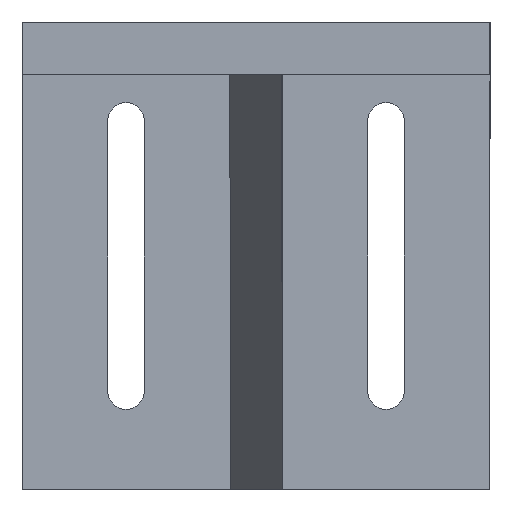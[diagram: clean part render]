
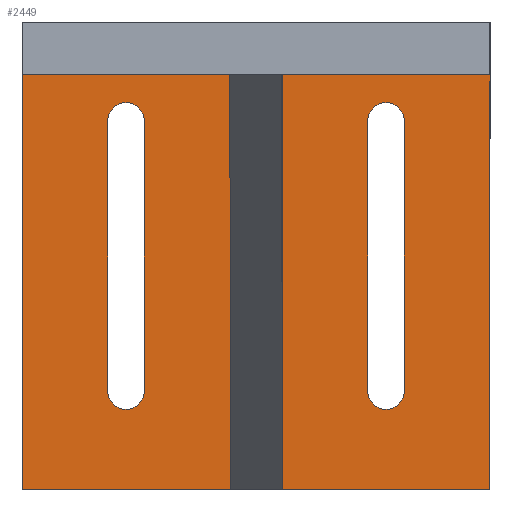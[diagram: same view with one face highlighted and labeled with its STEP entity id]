
A CAD part, left-side view. The second image highlights one B-rep face of the part: STEP entity #2449.
In plain terms, the highlighted planar face has unit normal (-1, 0, 0) as drawn and (0, 0, -1) by its records, which use the part's own axes.
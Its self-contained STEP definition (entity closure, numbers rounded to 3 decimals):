
#58 = EDGE_CURVE ( 'NONE', #476, #2501, #375, .T. ) ;
#61 = EDGE_CURVE ( 'NONE', #1996, #1690, #442, .T. ) ;
#109 = DIRECTION ( 'NONE',  ( 0., 0., 1. ) ) ;
#128 = LINE ( 'NONE', #367, #147 ) ;
#131 = CIRCLE ( 'NONE', #2709, 3.5 ) ;
#147 = VECTOR ( 'NONE', #2423, 1000. ) ;
#164 = DIRECTION ( 'NONE',  ( 0., 0., 1. ) ) ;
#202 = EDGE_CURVE ( 'NONE', #1141, #476, #2625, .T. ) ;
#247 = VERTEX_POINT ( 'NONE', #3150 ) ;
#274 = FACE_BOUND ( 'NONE', #704, .T. ) ;
#367 = CARTESIAN_POINT ( 'NONE',  ( 45., -45., -5. ) ) ;
#375 = CIRCLE ( 'NONE', #3414, 3.5 ) ;
#416 = EDGE_CURVE ( 'NONE', #3387, #1996, #2826, .T. ) ;
#442 = LINE ( 'NONE', #2719, #2700 ) ;
#456 = EDGE_CURVE ( 'NONE', #2775, #247, #2763, .T. ) ;
#476 = VERTEX_POINT ( 'NONE', #788 ) ;
#482 = VECTOR ( 'NONE', #1109, 1000. ) ;
#483 = CIRCLE ( 'NONE', #2009, 3.3 ) ;
#494 = CARTESIAN_POINT ( 'NONE',  ( 21.5, 26., -5. ) ) ;
#528 = ORIENTED_EDGE ( 'NONE', *, *, #737, .T. ) ;
#553 = EDGE_CURVE ( 'NONE', #1394, #3387, #2781, .T. ) ;
#558 = ORIENTED_EDGE ( 'NONE', *, *, #416, .F. ) ;
#559 = CARTESIAN_POINT ( 'NONE',  ( -3.3, 27., -5. ) ) ;
#561 = AXIS2_PLACEMENT_3D ( 'NONE', #1924, #109, #2177 ) ;
#580 = CARTESIAN_POINT ( 'NONE',  ( 45., -45., -5. ) ) ;
#652 = EDGE_LOOP ( 'NONE', ( #2234, #1650 ) ) ;
#657 = CIRCLE ( 'NONE', #2353, 3.3 ) ;
#688 = CARTESIAN_POINT ( 'NONE',  ( 25., -26., -5. ) ) ;
#701 = VERTEX_POINT ( 'NONE', #3074 ) ;
#704 = EDGE_LOOP ( 'NONE', ( #1896, #528, #1130, #786 ) ) ;
#737 = EDGE_CURVE ( 'NONE', #701, #2775, #1626, .T. ) ;
#776 = EDGE_CURVE ( 'NONE', #901, #2981, #657, .T. ) ;
#786 = ORIENTED_EDGE ( 'NONE', *, *, #2278, .T. ) ;
#788 = CARTESIAN_POINT ( 'NONE',  ( -21.5, 26., -5. ) ) ;
#794 = DIRECTION ( 'NONE',  ( 1., 0., 0. ) ) ;
#805 = CIRCLE ( 'NONE', #2703, 3.3 ) ;
#812 = VECTOR ( 'NONE', #2120, 1000. ) ;
#817 = CARTESIAN_POINT ( 'NONE',  ( 0., -19., -5. ) ) ;
#844 = CARTESIAN_POINT ( 'NONE',  ( 45., 45., -5. ) ) ;
#894 = VERTEX_POINT ( 'NONE', #2886 ) ;
#901 = VERTEX_POINT ( 'NONE', #559 ) ;
#974 = CARTESIAN_POINT ( 'NONE',  ( -45., -45., -5. ) ) ;
#986 = CARTESIAN_POINT ( 'NONE',  ( 28.5, -26., -5. ) ) ;
#1007 = DIRECTION ( 'NONE',  ( 0., 0., 1. ) ) ;
#1010 = EDGE_CURVE ( 'NONE', #1690, #1394, #128, .T. ) ;
#1015 = DIRECTION ( 'NONE',  ( 0., -1., 0. ) ) ;
#1067 = DIRECTION ( 'NONE',  ( 1., 0., 0. ) ) ;
#1109 = DIRECTION ( 'NONE',  ( 0., 1., 0. ) ) ;
#1126 = CARTESIAN_POINT ( 'NONE',  ( -25., -26., -5. ) ) ;
#1130 = ORIENTED_EDGE ( 'NONE', *, *, #456, .T. ) ;
#1136 = ORIENTED_EDGE ( 'NONE', *, *, #1010, .F. ) ;
#1141 = VERTEX_POINT ( 'NONE', #2550 ) ;
#1241 = EDGE_CURVE ( 'NONE', #2501, #894, #3199, .T. ) ;
#1272 = CARTESIAN_POINT ( 'NONE',  ( 3.3, -19., -5. ) ) ;
#1307 = CARTESIAN_POINT ( 'NONE',  ( 0., 0., -5. ) ) ;
#1316 = CARTESIAN_POINT ( 'NONE',  ( 3.3, 27., -5. ) ) ;
#1331 = DIRECTION ( 'NONE',  ( 0., -1., 0. ) ) ;
#1393 = ORIENTED_EDGE ( 'NONE', *, *, #2718, .T. ) ;
#1394 = VERTEX_POINT ( 'NONE', #2454 ) ;
#1422 = FACE_BOUND ( 'NONE', #2895, .T. ) ;
#1455 = FACE_BOUND ( 'NONE', #652, .T. ) ;
#1469 = VERTEX_POINT ( 'NONE', #2724 ) ;
#1470 = CARTESIAN_POINT ( 'NONE',  ( -28.5, 26., -5. ) ) ;
#1497 = FACE_BOUND ( 'NONE', #2002, .T. ) ;
#1503 = CIRCLE ( 'NONE', #1667, 3.3 ) ;
#1540 = CARTESIAN_POINT ( 'NONE',  ( 0., -19., -5. ) ) ;
#1550 = VECTOR ( 'NONE', #2901, 1000. ) ;
#1626 = CIRCLE ( 'NONE', #561, 3.5 ) ;
#1649 = VECTOR ( 'NONE', #2585, 1000. ) ;
#1650 = ORIENTED_EDGE ( 'NONE', *, *, #776, .T. ) ;
#1658 = CARTESIAN_POINT ( 'NONE',  ( -25., 26., -5. ) ) ;
#1667 = AXIS2_PLACEMENT_3D ( 'NONE', #1540, #1007, #1835 ) ;
#1690 = VERTEX_POINT ( 'NONE', #974 ) ;
#1700 = ORIENTED_EDGE ( 'NONE', *, *, #1241, .T. ) ;
#1762 = DIRECTION ( 'NONE',  ( 0., -1., 0. ) ) ;
#1801 = CARTESIAN_POINT ( 'NONE',  ( -45., 45., -5. ) ) ;
#1835 = DIRECTION ( 'NONE',  ( 1., 0., 0. ) ) ;
#1858 = ORIENTED_EDGE ( 'NONE', *, *, #553, .F. ) ;
#1862 = CARTESIAN_POINT ( 'NONE',  ( 45., 45., -5. ) ) ;
#1896 = ORIENTED_EDGE ( 'NONE', *, *, #3367, .T. ) ;
#1924 = CARTESIAN_POINT ( 'NONE',  ( 25., 26., -5. ) ) ;
#1930 = DIRECTION ( 'NONE',  ( -1., 0., 0. ) ) ;
#1938 = CARTESIAN_POINT ( 'NONE',  ( 0., 27., -5. ) ) ;
#1970 = VECTOR ( 'NONE', #1762, 1000. ) ;
#1996 = VERTEX_POINT ( 'NONE', #1801 ) ;
#2002 = EDGE_LOOP ( 'NONE', ( #3342, #2180 ) ) ;
#2009 = AXIS2_PLACEMENT_3D ( 'NONE', #1938, #2186, #2432 ) ;
#2098 = CARTESIAN_POINT ( 'NONE',  ( 0., 27., -5. ) ) ;
#2100 = CARTESIAN_POINT ( 'NONE',  ( 28.5, 26., -5. ) ) ;
#2120 = DIRECTION ( 'NONE',  ( 0., 1., 0. ) ) ;
#2177 = DIRECTION ( 'NONE',  ( -1., 0., 0. ) ) ;
#2180 = ORIENTED_EDGE ( 'NONE', *, *, #2512, .T. ) ;
#2184 = ORIENTED_EDGE ( 'NONE', *, *, #58, .T. ) ;
#2186 = DIRECTION ( 'NONE',  ( 0., 0., 1. ) ) ;
#2212 = DIRECTION ( 'NONE',  ( 0., 0., 1. ) ) ;
#2234 = ORIENTED_EDGE ( 'NONE', *, *, #2737, .T. ) ;
#2278 = EDGE_CURVE ( 'NONE', #247, #2513, #131, .T. ) ;
#2353 = AXIS2_PLACEMENT_3D ( 'NONE', #2098, #164, #794 ) ;
#2381 = CARTESIAN_POINT ( 'NONE',  ( 21.5, 26., -5. ) ) ;
#2423 = DIRECTION ( 'NONE',  ( 1., 0., 0. ) ) ;
#2432 = DIRECTION ( 'NONE',  ( 1., 0., 0. ) ) ;
#2444 = ORIENTED_EDGE ( 'NONE', *, *, #61, .F. ) ;
#2449 = ADVANCED_FACE ( 'NONE', ( #1497, #1455, #274, #1422, #2537 ), #3188, .F. ) ;
#2454 = CARTESIAN_POINT ( 'NONE',  ( 45., -45., -5. ) ) ;
#2473 = DIRECTION ( 'NONE',  ( 0., 0., 1. ) ) ;
#2501 = VERTEX_POINT ( 'NONE', #3419 ) ;
#2507 = DIRECTION ( 'NONE',  ( 0., 0., 1. ) ) ;
#2512 = EDGE_CURVE ( 'NONE', #1469, #3009, #1503, .T. ) ;
#2513 = VERTEX_POINT ( 'NONE', #986 ) ;
#2527 = DIRECTION ( 'NONE',  ( 0., 0., 1. ) ) ;
#2537 = FACE_OUTER_BOUND ( 'NONE', #3177, .T. ) ;
#2550 = CARTESIAN_POINT ( 'NONE',  ( -21.5, -26., -5. ) ) ;
#2581 = CIRCLE ( 'NONE', #3377, 3.5 ) ;
#2585 = DIRECTION ( 'NONE',  ( -1., 0., 0. ) ) ;
#2600 = DIRECTION ( 'NONE',  ( 1., 0., 0. ) ) ;
#2625 = LINE ( 'NONE', #3388, #1550 ) ;
#2640 = DIRECTION ( 'NONE',  ( 0., 0., 1. ) ) ;
#2700 = VECTOR ( 'NONE', #1331, 1000. ) ;
#2703 = AXIS2_PLACEMENT_3D ( 'NONE', #817, #2640, #1067 ) ;
#2709 = AXIS2_PLACEMENT_3D ( 'NONE', #688, #2473, #1930 ) ;
#2718 = EDGE_CURVE ( 'NONE', #894, #1141, #2581, .T. ) ;
#2719 = CARTESIAN_POINT ( 'NONE',  ( -45., -45., -5. ) ) ;
#2724 = CARTESIAN_POINT ( 'NONE',  ( -3.3, -19., -5. ) ) ;
#2737 = EDGE_CURVE ( 'NONE', #2981, #901, #483, .T. ) ;
#2763 = LINE ( 'NONE', #2381, #2852 ) ;
#2775 = VERTEX_POINT ( 'NONE', #494 ) ;
#2781 = LINE ( 'NONE', #580, #482 ) ;
#2826 = LINE ( 'NONE', #1862, #1649 ) ;
#2838 = ORIENTED_EDGE ( 'NONE', *, *, #202, .T. ) ;
#2852 = VECTOR ( 'NONE', #1015, 1000. ) ;
#2886 = CARTESIAN_POINT ( 'NONE',  ( -28.5, -26., -5. ) ) ;
#2895 = EDGE_LOOP ( 'NONE', ( #2838, #2184, #1700, #1393 ) ) ;
#2901 = DIRECTION ( 'NONE',  ( 0., 1., 0. ) ) ;
#2940 = LINE ( 'NONE', #2100, #812 ) ;
#2981 = VERTEX_POINT ( 'NONE', #1316 ) ;
#2984 = AXIS2_PLACEMENT_3D ( 'NONE', #1307, #2527, #2600 ) ;
#3009 = VERTEX_POINT ( 'NONE', #1272 ) ;
#3018 = DIRECTION ( 'NONE',  ( 1., 0., 0. ) ) ;
#3074 = CARTESIAN_POINT ( 'NONE',  ( 28.5, 26., -5. ) ) ;
#3150 = CARTESIAN_POINT ( 'NONE',  ( 21.5, -26., -5. ) ) ;
#3177 = EDGE_LOOP ( 'NONE', ( #2444, #558, #1858, #1136 ) ) ;
#3188 = PLANE ( 'NONE',  #2984 ) ;
#3199 = LINE ( 'NONE', #1470, #1970 ) ;
#3208 = DIRECTION ( 'NONE',  ( 1., 0., 0. ) ) ;
#3342 = ORIENTED_EDGE ( 'NONE', *, *, #3410, .T. ) ;
#3367 = EDGE_CURVE ( 'NONE', #2513, #701, #2940, .T. ) ;
#3377 = AXIS2_PLACEMENT_3D ( 'NONE', #1126, #2212, #3018 ) ;
#3387 = VERTEX_POINT ( 'NONE', #844 ) ;
#3388 = CARTESIAN_POINT ( 'NONE',  ( -21.5, 26., -5. ) ) ;
#3410 = EDGE_CURVE ( 'NONE', #3009, #1469, #805, .T. ) ;
#3414 = AXIS2_PLACEMENT_3D ( 'NONE', #1658, #2507, #3208 ) ;
#3419 = CARTESIAN_POINT ( 'NONE',  ( -28.5, 26., -5. ) ) ;
